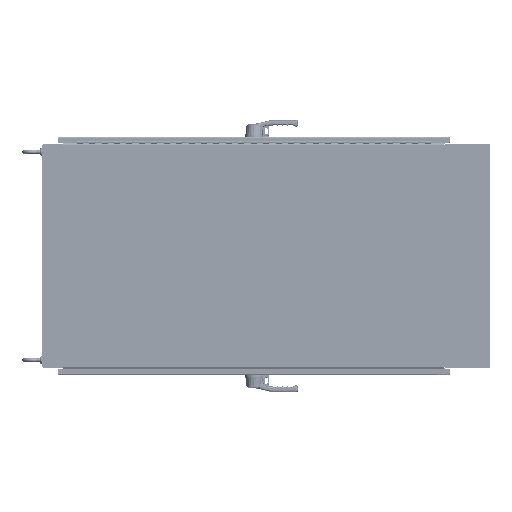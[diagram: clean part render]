
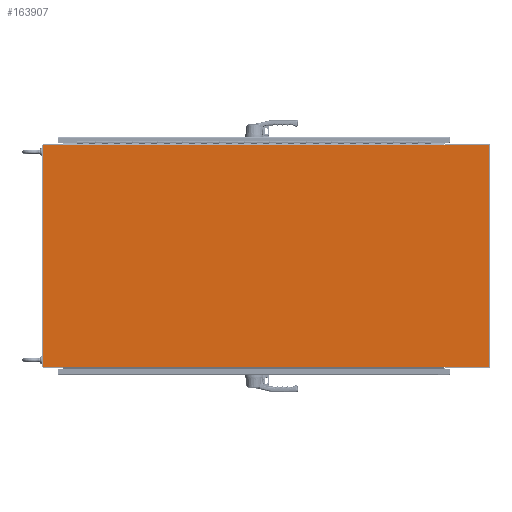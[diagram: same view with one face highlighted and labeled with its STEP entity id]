
A CAD part, left-side view. The second image highlights one B-rep face of the part: STEP entity #163907.
In plain terms, the highlighted planar face has unit normal (-1, 0, 0).
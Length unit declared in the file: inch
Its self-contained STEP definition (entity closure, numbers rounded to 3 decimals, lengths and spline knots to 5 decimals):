
#234 = AXIS2_PLACEMENT_3D ( 'NONE', #250593, #112183, #273819 ) ;
#605 = VECTOR ( 'NONE', #110942, 39.37008 ) ;
#3186 = LINE ( 'NONE', #278023, #118820 ) ;
#4723 = ORIENTED_EDGE ( 'NONE', *, *, #293065, .F. ) ;
#4944 = CARTESIAN_POINT ( 'NONE',  ( 0., -28.6385, 35.874 ) ) ;
#5241 = DIRECTION ( 'NONE',  ( 0., 0., 1. ) ) ;
#5414 = VECTOR ( 'NONE', #50256, 39.37008 ) ;
#12386 = DIRECTION ( 'NONE',  ( 0., -1., 0. ) ) ;
#18801 = VECTOR ( 'NONE', #250820, 39.37008 ) ;
#20696 = DIRECTION ( 'NONE',  ( 0., 0., -1. ) ) ;
#20778 = EDGE_CURVE ( 'NONE', #218664, #127263, #212751, .T. ) ;
#22004 = EDGE_CURVE ( 'NONE', #43231, #206103, #110918, .T. ) ;
#27309 = ORIENTED_EDGE ( 'NONE', *, *, #217823, .F. ) ;
#28469 = CARTESIAN_POINT ( 'NONE',  ( 0., -28.6385, 36.062 ) ) ;
#30384 = CARTESIAN_POINT ( 'NONE',  ( 0., 35.9185, 35.8775 ) ) ;
#43231 = VERTEX_POINT ( 'NONE', #265164 ) ;
#44894 = CIRCLE ( 'NONE', #234, 0.072 ) ;
#47475 = CIRCLE ( 'NONE', #195766, 0.072 ) ;
#50061 = EDGE_LOOP ( 'NONE', ( #4723, #57262, #217083, #230525, #105729, #27309, #160321, #61415, #294525, #98426, #94285, #119218, #257674, #159184, #280612, #263075 ) ) ;
#50256 = DIRECTION ( 'NONE',  ( 0., 0., -1. ) ) ;
#51152 = EDGE_CURVE ( 'NONE', #192222, #114903, #128250, .T. ) ;
#51295 = CARTESIAN_POINT ( 'NONE',  ( 0., -35.8465, 0.1125 ) ) ;
#54735 = LINE ( 'NONE', #249326, #605 ) ;
#57262 = ORIENTED_EDGE ( 'NONE', *, *, #78876, .T. ) ;
#59755 = VERTEX_POINT ( 'NONE', #51295 ) ;
#61415 = ORIENTED_EDGE ( 'NONE', *, *, #230310, .F. ) ;
#62340 = CARTESIAN_POINT ( 'NONE',  ( 0., 35.8465, 35.8775 ) ) ;
#63580 = DIRECTION ( 'NONE',  ( -1., 0., 0. ) ) ;
#66023 = CARTESIAN_POINT ( 'NONE',  ( 0., 35.9185, 36.062 ) ) ;
#69758 = DIRECTION ( 'NONE',  ( -1., 0., 0. ) ) ;
#78876 = EDGE_CURVE ( 'NONE', #59755, #180386, #44894, .T. ) ;
#81952 = DIRECTION ( 'NONE',  ( 0., 0., 1. ) ) ;
#82704 = CARTESIAN_POINT ( 'NONE',  ( 0., -35.9185, 35.8775 ) ) ;
#83245 = EDGE_CURVE ( 'NONE', #192222, #285219, #3186, .T. ) ;
#84643 = CARTESIAN_POINT ( 'NONE',  ( 0., -28.6385, 0.1125 ) ) ;
#85276 = VECTOR ( 'NONE', #12386, 39.37008 ) ;
#85640 = DIRECTION ( 'NONE',  ( 0., 0., -1. ) ) ;
#86829 = CARTESIAN_POINT ( 'NONE',  ( 0., -35.9185, 36.062 ) ) ;
#87642 = AXIS2_PLACEMENT_3D ( 'NONE', #208279, #69758, #231466 ) ;
#89181 = CARTESIAN_POINT ( 'NONE',  ( 0., -35.9185, 0.1125 ) ) ;
#93921 = VERTEX_POINT ( 'NONE', #270758 ) ;
#94285 = ORIENTED_EDGE ( 'NONE', *, *, #175540, .F. ) ;
#95826 = LINE ( 'NONE', #28469, #211577 ) ;
#98426 = ORIENTED_EDGE ( 'NONE', *, *, #22004, .T. ) ;
#98588 = AXIS2_PLACEMENT_3D ( 'NONE', #62340, #224098, #85640 ) ;
#100716 = EDGE_CURVE ( 'NONE', #170324, #180386, #291008, .T. ) ;
#104079 = AXIS2_PLACEMENT_3D ( 'NONE', #86829, #248431, #110079 ) ;
#105729 = ORIENTED_EDGE ( 'NONE', *, *, #295388, .F. ) ;
#108337 = VECTOR ( 'NONE', #194901, 39.37008 ) ;
#110079 = DIRECTION ( 'NONE',  ( 0., 0., -1. ) ) ;
#110918 = CIRCLE ( 'NONE', #98588, 0.072 ) ;
#110942 = DIRECTION ( 'NONE',  ( 0., 0., -1. ) ) ;
#112183 = DIRECTION ( 'NONE',  ( -1., 0., 0. ) ) ;
#114458 = EDGE_CURVE ( 'NONE', #114903, #93921, #212161, .T. ) ;
#114903 = VERTEX_POINT ( 'NONE', #195993 ) ;
#115284 = CARTESIAN_POINT ( 'NONE',  ( 0., 32.6385, 0.188 ) ) ;
#117017 = VERTEX_POINT ( 'NONE', #267445 ) ;
#118820 = VECTOR ( 'NONE', #162833, 39.37008 ) ;
#119218 = ORIENTED_EDGE ( 'NONE', *, *, #236226, .T. ) ;
#124262 = EDGE_CURVE ( 'NONE', #141869, #285219, #95826, .T. ) ;
#124953 = CIRCLE ( 'NONE', #87642, 0.072 ) ;
#127263 = VERTEX_POINT ( 'NONE', #219608 ) ;
#128250 = LINE ( 'NONE', #234190, #5414 ) ;
#129986 = LINE ( 'NONE', #220417, #184322 ) ;
#130119 = EDGE_CURVE ( 'NONE', #43231, #246780, #208303, .T. ) ;
#130264 = EDGE_CURVE ( 'NONE', #170324, #117017, #124953, .T. ) ;
#137944 = LINE ( 'NONE', #66023, #253652 ) ;
#141869 = VERTEX_POINT ( 'NONE', #84643 ) ;
#144293 = DIRECTION ( 'NONE',  ( 0., 1., 0. ) ) ;
#150586 = VECTOR ( 'NONE', #265263, 39.37008 ) ;
#159184 = ORIENTED_EDGE ( 'NONE', *, *, #51152, .F. ) ;
#160321 = ORIENTED_EDGE ( 'NONE', *, *, #20778, .T. ) ;
#162833 = DIRECTION ( 'NONE',  ( 0., -1., 0. ) ) ;
#163907 = ADVANCED_FACE ( 'NONE', ( #169329 ), #178766, .F. ) ;
#169329 = FACE_OUTER_BOUND ( 'NONE', #50061, .T. ) ;
#169824 = LINE ( 'NONE', #285858, #108337 ) ;
#170324 = VERTEX_POINT ( 'NONE', #82704 ) ;
#175540 = EDGE_CURVE ( 'NONE', #218054, #206103, #137944, .T. ) ;
#178766 = PLANE ( 'NONE',  #104079 ) ;
#180386 = VERTEX_POINT ( 'NONE', #201681 ) ;
#184322 = VECTOR ( 'NONE', #81952, 39.37008 ) ;
#188639 = VERTEX_POINT ( 'NONE', #217833 ) ;
#192222 = VERTEX_POINT ( 'NONE', #115284 ) ;
#194901 = DIRECTION ( 'NONE',  ( 0., -1., 0. ) ) ;
#195766 = AXIS2_PLACEMENT_3D ( 'NONE', #202081, #63580, #225346 ) ;
#195993 = CARTESIAN_POINT ( 'NONE',  ( 0., 32.6385, 0.1125 ) ) ;
#201681 = CARTESIAN_POINT ( 'NONE',  ( 0., -35.9185, 0.1845 ) ) ;
#202081 = CARTESIAN_POINT ( 'NONE',  ( 0., 35.8465, 0.1845 ) ) ;
#206103 = VERTEX_POINT ( 'NONE', #30384 ) ;
#208279 = CARTESIAN_POINT ( 'NONE',  ( 0., -35.8465, 35.8775 ) ) ;
#208303 = LINE ( 'NONE', #287239, #85276 ) ;
#211577 = VECTOR ( 'NONE', #5241, 39.37008 ) ;
#212161 = LINE ( 'NONE', #242019, #150586 ) ;
#212751 = LINE ( 'NONE', #4944, #274085 ) ;
#215071 = VECTOR ( 'NONE', #20696, 39.37008 ) ;
#217083 = ORIENTED_EDGE ( 'NONE', *, *, #100716, .F. ) ;
#217823 = EDGE_CURVE ( 'NONE', #218664, #188639, #129986, .T. ) ;
#217833 = CARTESIAN_POINT ( 'NONE',  ( 0., -28.6385, 35.9495 ) ) ;
#218054 = VERTEX_POINT ( 'NONE', #278811 ) ;
#218664 = VERTEX_POINT ( 'NONE', #245840 ) ;
#219608 = CARTESIAN_POINT ( 'NONE',  ( 0., 32.6385, 35.874 ) ) ;
#220417 = CARTESIAN_POINT ( 'NONE',  ( 0., -28.6385, 36.062 ) ) ;
#222619 = CARTESIAN_POINT ( 'NONE',  ( 0., 32.6385, 35.9495 ) ) ;
#224098 = DIRECTION ( 'NONE',  ( -1., 0., 0. ) ) ;
#225346 = DIRECTION ( 'NONE',  ( 0., 0., -1. ) ) ;
#230310 = EDGE_CURVE ( 'NONE', #246780, #127263, #54735, .T. ) ;
#230525 = ORIENTED_EDGE ( 'NONE', *, *, #130264, .T. ) ;
#231466 = DIRECTION ( 'NONE',  ( 0., 0., -1. ) ) ;
#234190 = CARTESIAN_POINT ( 'NONE',  ( 0., 32.6385, 36.062 ) ) ;
#236226 = EDGE_CURVE ( 'NONE', #218054, #93921, #47475, .T. ) ;
#242019 = CARTESIAN_POINT ( 'NONE',  ( 0., -35.9185, 0.1125 ) ) ;
#245840 = CARTESIAN_POINT ( 'NONE',  ( 0., -28.6385, 35.874 ) ) ;
#246780 = VERTEX_POINT ( 'NONE', #222619 ) ;
#248431 = DIRECTION ( 'NONE',  ( 1., 0., 0. ) ) ;
#249326 = CARTESIAN_POINT ( 'NONE',  ( 0., 32.6385, 36.062 ) ) ;
#250593 = CARTESIAN_POINT ( 'NONE',  ( 0., -35.8465, 0.1845 ) ) ;
#250820 = DIRECTION ( 'NONE',  ( 0., 1., 0. ) ) ;
#251994 = CARTESIAN_POINT ( 'NONE',  ( 0., -35.9185, 36.062 ) ) ;
#253652 = VECTOR ( 'NONE', #272178, 39.37008 ) ;
#257674 = ORIENTED_EDGE ( 'NONE', *, *, #114458, .F. ) ;
#263075 = ORIENTED_EDGE ( 'NONE', *, *, #124262, .F. ) ;
#264569 = LINE ( 'NONE', #89181, #18801 ) ;
#265164 = CARTESIAN_POINT ( 'NONE',  ( 0., 35.8465, 35.9495 ) ) ;
#265263 = DIRECTION ( 'NONE',  ( 0., 1., 0. ) ) ;
#267445 = CARTESIAN_POINT ( 'NONE',  ( 0., -35.8465, 35.9495 ) ) ;
#267605 = CARTESIAN_POINT ( 'NONE',  ( 0., -28.6385, 0.188 ) ) ;
#270758 = CARTESIAN_POINT ( 'NONE',  ( 0., 35.8465, 0.1125 ) ) ;
#272178 = DIRECTION ( 'NONE',  ( 0., 0., 1. ) ) ;
#273819 = DIRECTION ( 'NONE',  ( 0., 0., -1. ) ) ;
#274085 = VECTOR ( 'NONE', #144293, 39.37008 ) ;
#278023 = CARTESIAN_POINT ( 'NONE',  ( 0., 32.6385, 0.188 ) ) ;
#278811 = CARTESIAN_POINT ( 'NONE',  ( 0., 35.9185, 0.1845 ) ) ;
#280612 = ORIENTED_EDGE ( 'NONE', *, *, #83245, .T. ) ;
#285219 = VERTEX_POINT ( 'NONE', #267605 ) ;
#285858 = CARTESIAN_POINT ( 'NONE',  ( 0., -35.9185, 35.9495 ) ) ;
#287239 = CARTESIAN_POINT ( 'NONE',  ( 0., -35.9185, 35.9495 ) ) ;
#291008 = LINE ( 'NONE', #251994, #215071 ) ;
#293065 = EDGE_CURVE ( 'NONE', #59755, #141869, #264569, .T. ) ;
#294525 = ORIENTED_EDGE ( 'NONE', *, *, #130119, .F. ) ;
#295388 = EDGE_CURVE ( 'NONE', #188639, #117017, #169824, .T. ) ;
